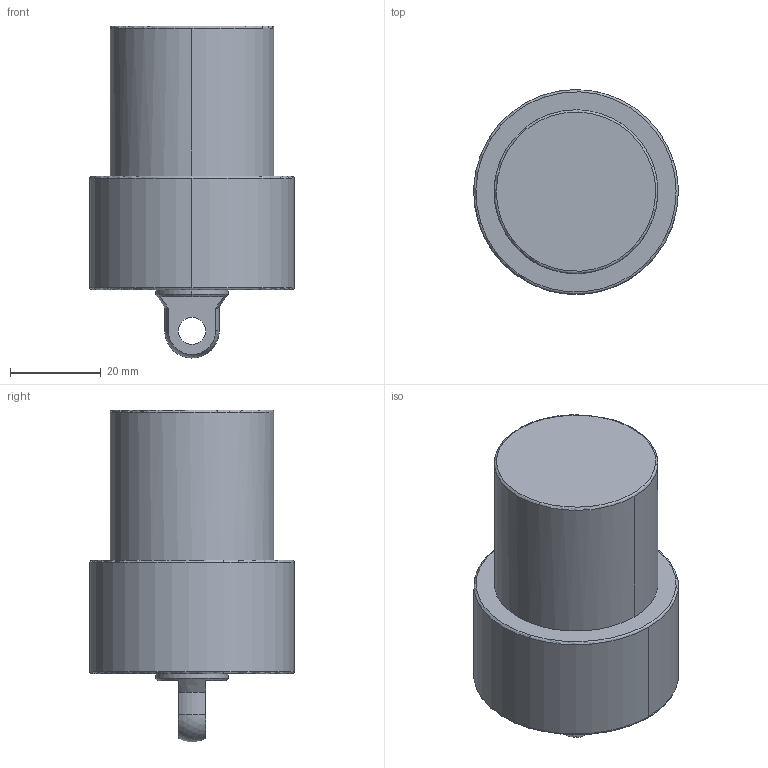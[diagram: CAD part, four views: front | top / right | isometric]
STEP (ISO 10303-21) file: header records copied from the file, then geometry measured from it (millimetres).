
FILE_DESCRIPTION((' '),'2;1');
FILE_NAME( 'TLLU-036GP-025.STEP.stp', '2025-10-24T16:37:08', (' '), ('--- Datakit www.datakit.com---'), ' Datakit CrossCadWare V2024.1 Dec 21 2023', 'Mastercam 2025', ' ');
FILE_SCHEMA(('AUTOMOTIVE_DESIGN { 1 0 10303 214 1 1 1 1 }'));
Length unit declared in the file: millimetre
Products named in the file (1): TLLU-036GP-025
Bounding box: 44.99 x 45 x 72.97 mm (x, y, z)
Volume: 73702.9 mm3; surface area: 11436.3 mm2
Topology: 1 solids, 1 shells, 56 faces, 159 edges, 105 vertices
Faces by surface type: cylinder 22, cone 18, plane 9, torus 6, sphere 1
Entity records: 1872 total; most frequent: DIRECTION 364, CARTESIAN_POINT 325, ORIENTED_EDGE 302, AXIS2_PLACEMENT_3D 160, EDGE_CURVE 151, VERTEX_POINT 105, CIRCLE 103, EDGE_LOOP 66
